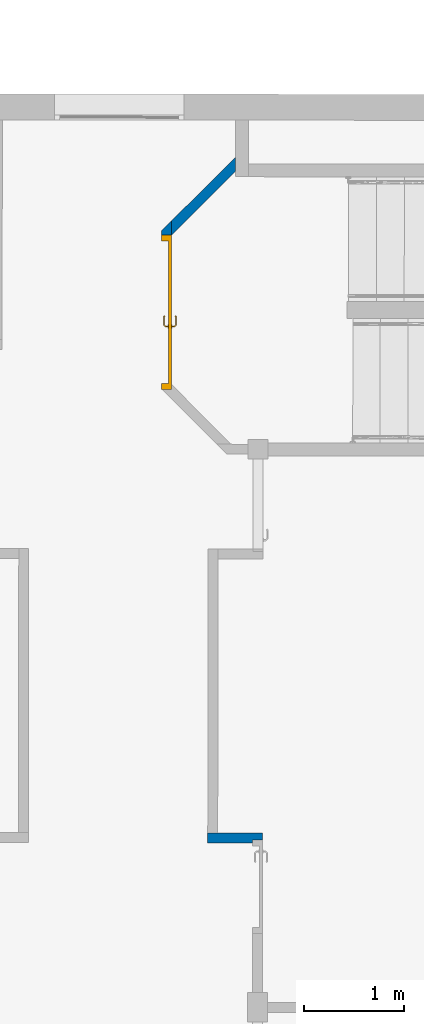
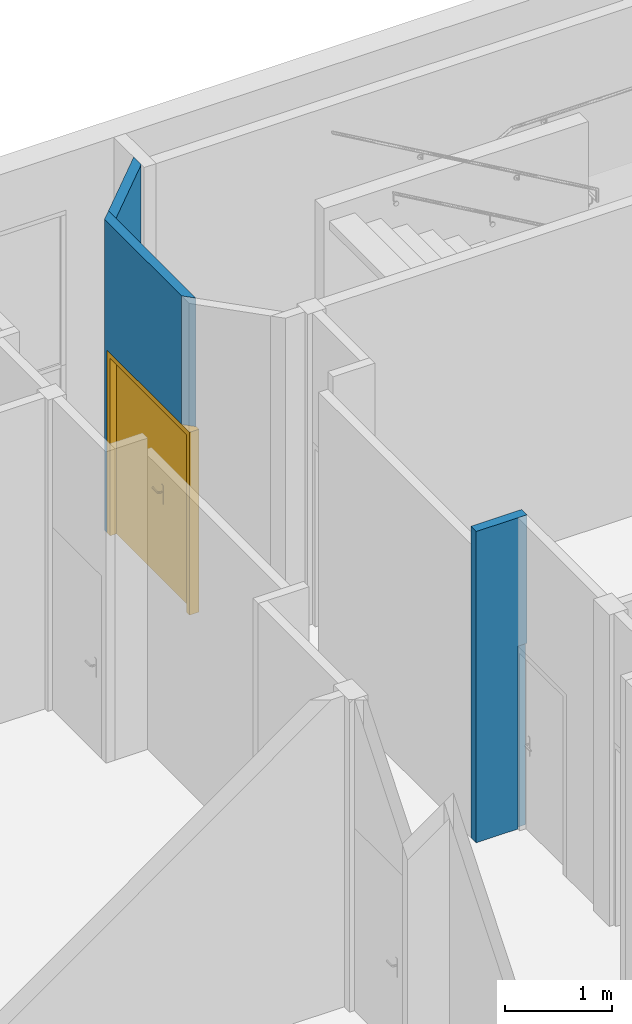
# One storey, part 67 of 101: 3 walls, 1 door, 2 openings.
"""IFC2X3 building model written with IfcOpenShell, lengths in metres."""

from ifc_helpers import new_model, entity, si_unit, converted_unit, derived_unit, direction, frame, frame_2d, origin, place, context, subcontext, project, spatial, polyline, rectangle, outline, extrude, faceted_brep, source, transform, mapped, material, material_list, layer, layer_set, layer_usage, type_object, type_shapes, element, fill, save


model = new_model("IFC2X3")

# Units and contexts
model_context = context("Model", 3, precision=1e-05, world=origin(), true_north=direction((6.123233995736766e-17, 1.0)))
body_context = subcontext(model_context, "Body", "Model", "MODEL_VIEW")
ifc_project = project(units=[si_unit("LENGTHUNIT", "METRE"), si_unit("AREAUNIT", "SQUARE_METRE"), converted_unit("PLANEANGLEUNIT", "DEGREE", entity("IfcPlaneAngleMeasure", 0.017453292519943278), si_unit("PLANEANGLEUNIT", "RADIAN"), dimensions=[0, 0, 0, 0, 0, 0, 0]), derived_unit("THERMALTRANSMITTANCEUNIT", [(si_unit("MASSUNIT", "GRAM", prefix="KILO"), 1), (si_unit("THERMODYNAMICTEMPERATUREUNIT", "KELVIN"), -1), (si_unit("TIMEUNIT", "SECOND"), -3)])], contexts=[model_context])

# Site, building, storey
site_placement = place(None, frame((1253.6752467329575, 2072.143113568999, 91.49999999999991), z_axis=(0.0, 0.0, 1.0), x_axis=(0.7237211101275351, 0.6900925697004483, 0.0)))
site = spatial("IfcSite", under=ifc_project, at=site_placement, Name="Surface", CompositionType="ELEMENT")
building_placement = place(site_placement, origin())
building = spatial("IfcBuilding", under=site, at=building_placement, CompositionType="ELEMENT")
storey_placement = place(building_placement, origin())
storey = spatial("IfcBuildingStorey", under=building, at=storey_placement, Name="0- Rdc", CompositionType="ELEMENT", Elevation=-5.764692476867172e-13)

# Wall, opening
ifc_material_1 = material(Name="OMD_Béton blanc")
ifc_layer = layer(ifc_material_1, 0.1)
ifc_layer_set = layer_set([ifc_layer], Name="Mur de base:MUR 10")
ifc_layer_usage_1 = layer_usage(ifc_layer_set, "AXIS2", "NEGATIVE", 0.05)
wall_type = type_object("IfcWallType", Name="Mur de base:MUR 10", PredefinedType="STANDARD", material=ifc_layer_set)
wall_1_placement = place(storey_placement, frame((167.12029654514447, 16.499422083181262, 0.0), z_axis=(0.0, 0.0, 1.0), x_axis=(-0.7228702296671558, 0.6909838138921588, 0.0)))
wall_1 = element("IfcWallStandardCase", 1, at=wall_1_placement, inside=storey, type_object=wall_type, material=ifc_layer_usage_1, Name="Mur de base:MUR 10", ObjectType="Mur de base:MUR 10", context=body_context, shape_type="SweptSolid", body=[
    extrude(rectangle(XDim=0.5499999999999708, YDim=0.10000000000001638, at=frame_2d((0.2749999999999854, 3.400058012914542e-16), x_axis=(-1.0, 0.0))), origin(), (0.0, 0.0, 1.0), 3.5499999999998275),
])
opening_1_placement = place(wall_1_placement, frame((109.40545354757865, 127.40436091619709, 0.0)))
element("IfcOpeningElement", 2, at=opening_1_placement, cuts=wall_1, Name="Mur de base:MUR 10", ObjectType="Opening", context=body_context, shape_type="SweptSolid", body=[
    extrude(rectangle(XDim=2.0850000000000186, YDim=0.09999999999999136, at=frame_2d((3.740063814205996e-15, -1.1102230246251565e-16), x_axis=(0.0, 1.0))), frame((-109.3554535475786, -127.38186091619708, 1.0425000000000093), z_axis=(0.0, 1.0, 0.0), x_axis=(1.0, 0.0, 0.0)), (0.0, 0.0, 1.0), 0.9349999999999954),
])

# Wall, opening, door
wall_2_placement = place(storey_placement, frame((169.56308877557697, 20.458735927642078, 0.0), z_axis=(0.0, 0.0, 1.0), x_axis=(0.690983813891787, 0.7228702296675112, 0.0)))
wall_2 = element("IfcWall", 3, at=wall_2_placement, inside=storey, type_object=wall_type, Name="Mur de base:MUR 10", ObjectType="Mur de base:MUR 10", context=body_context, shape_type="Brep", body=[
    faceted_brep([(1.641421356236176, -0.05000000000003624, 3.5499999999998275), (1.4999999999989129, -0.05000000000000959, 3.5499999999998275), (0.0, -0.05000000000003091, 3.5499999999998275), (0.0, -0.050000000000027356, 2.085), (1.4997269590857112, -0.05000000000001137, 2.085), (1.4997269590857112, -0.05000000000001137, 0.0), (1.4999999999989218, -0.05000000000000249, 0.0), (1.641421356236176, -0.05000000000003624, 0.0), (0.10000000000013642, 0.04999999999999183, 3.5499999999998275), (1.5414213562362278, 0.04999999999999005, 3.5499999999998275), (1.5414213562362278, 0.04999999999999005, 0.0), (1.499726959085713, 0.04999999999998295, 0.0), (1.4997269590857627, 0.049999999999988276, 2.085), (0.10000000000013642, 0.04999999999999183, 2.0849999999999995)], [[[0, 1, 2, 3, 4, 5, 6, 7]], [[8, 9, 10, 11, 12, 13]], [[2, 1, 0, 9, 8]], [[10, 7, 6, 5, 11]], [[0, 7, 10, 9]], [[2, 8, 13, 3]], [[12, 4, 3, 13]], [[4, 12, 11, 5]]]),
])
opening_2_placement = place(wall_2_placement, frame((1.4997269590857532, 0.050000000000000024, 0.0)))
opening_2 = element("IfcOpeningElement", 4, at=opening_2_placement, cuts=wall_2, Name="OMD_Porte 2V tunnel:140x204:1", ObjectType="Opening", context=body_context, shape_type="SweptSolid", body=[
    extrude(rectangle(XDim=2.085, YDim=1.5499999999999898, at=frame_2d((1.0425, 0.7749999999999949), x_axis=(1.0, 0.0))), frame((0.0, 0.0, 0.0), z_axis=(0.0, -1.0, 0.0), x_axis=(0.0, 0.0, 1.0)), (0.0, 0.0, 1.0), 0.09999999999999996),
])
ifc_material_2 = material(Name="<Unnamed>")
ifc_material_3 = material(Name="Porte - Poignée")
ifc_material_4 = material(Name="OMD_Bois")
ifc_material_list = material_list([ifc_material_2, ifc_material_3, ifc_material_4])
door_style = type_object("IfcDoorStyle", Name="OMD_Porte 2V tunnel:140x204", ConstructionType="NOTDEFINED", OperationType="NOTDEFINED", ParameterTakesPrecedence=False, Sizeable=False, material=ifc_material_list)
shared_shape = source(origin(), body_context, "Body", "Brep", [
    faceted_brep([(0.1450000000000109, 0.030000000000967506, 0.0), (0.6750000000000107, 0.030000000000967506, 0.0), (0.6750000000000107, 0.0, 0.0), (0.1450000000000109, 0.0, 0.0), (0.1450000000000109, 0.030000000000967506, 2.04), (0.1450000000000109, 0.0, 2.04), (0.6750000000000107, 0.0, 2.04), (0.6750000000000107, 0.030000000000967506, 2.04)], [[[0, 1, 2, 3]], [[4, 0, 3, 5]], [[5, 3, 2, 6]], [[6, 2, 1, 7]], [[7, 1, 0, 4]], [[4, 5, 6, 7]]]),
    faceted_brep([(0.7279747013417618, 0.035000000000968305, 1.0077804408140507), (0.7239999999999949, 0.035000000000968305, 1.0069999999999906), (0.7239999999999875, 0.035000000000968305, 0.9929999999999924), (0.7279747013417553, 0.035000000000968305, 0.9922195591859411), (0.7320252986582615, 0.035000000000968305, 0.9922195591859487), (0.7360000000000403, 0.035000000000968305, 0.9930000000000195), (0.7360000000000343, 0.035000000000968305, 1.0069999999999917), (0.7320252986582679, 0.035000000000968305, 1.007780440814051), (0.7360000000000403, 0.057485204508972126, 0.9930000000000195), (0.7360000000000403, 0.057485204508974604, 1.0069999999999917), (0.7320252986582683, 0.05913157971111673, 1.007780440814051), (0.7458389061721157, 0.07294518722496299, 1.007780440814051), (0.7441610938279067, 0.07699578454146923, 1.0077804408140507), (0.7279747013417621, 0.06080939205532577, 1.0077804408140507), (0.8356847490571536, 0.06646731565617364, 1.0077804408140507), (0.8385489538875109, 0.06933152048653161, 1.0077804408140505), (0.8308846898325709, 0.07699578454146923, 1.0077804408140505), (0.8292068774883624, 0.07294518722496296, 1.0077804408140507), (0.7239999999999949, 0.06245576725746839, 1.0069999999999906), (0.7239999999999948, 0.06245576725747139, 0.9929999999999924), (0.7279747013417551, 0.060809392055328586, 0.9922195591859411), (0.7441610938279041, 0.07699578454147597, 0.9922195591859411), (0.7458389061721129, 0.07294518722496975, 0.9922195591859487), (0.7320252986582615, 0.05913157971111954, 0.9922195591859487), (0.8385489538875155, 0.06933152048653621, 0.9922195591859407), (0.8356847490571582, 0.06646731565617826, 0.9922195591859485), (0.8292068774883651, 0.07294518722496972, 0.9922195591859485), (0.8308846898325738, 0.07699578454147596, 0.9922195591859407), (0.74748528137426, 0.06897048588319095, 0.9930000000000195), (0.7474852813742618, 0.06897048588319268, 1.0069999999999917), (0.7425147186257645, 0.08097048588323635, 1.0069999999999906), (0.7425147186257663, 0.08097048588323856, 0.9929999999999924), (0.787522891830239, 0.06897048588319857, 0.9930000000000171), (0.8275605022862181, 0.06897048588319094, 0.9930000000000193), (0.8275605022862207, 0.06897048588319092, 1.0069999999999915), (0.787522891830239, 0.06897048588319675, 1.0069999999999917), (0.7875228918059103, 0.07512492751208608, 1.0078781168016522), (0.8325310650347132, 0.0809704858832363, 1.0069999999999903), (0.7926005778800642, 0.08097048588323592, 1.0069999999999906), (0.8325310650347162, 0.08097048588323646, 0.9929999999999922), (0.7824452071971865, 0.08097048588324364, 0.9929999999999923), (0.7875228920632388, 0.07512492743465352, 0.9921218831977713), (0.8328742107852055, 0.06365677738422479, 0.9930000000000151), (0.8413594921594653, 0.0721420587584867, 0.99299999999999), (0.8413594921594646, 0.07214205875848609, 1.0069999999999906), (0.8328742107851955, 0.06365677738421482, 1.0069999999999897)], [[[0, 1, 2, 3, 4, 5, 6, 7]], [[6, 5, 8, 9]], [[9, 10, 7, 6]], [[10, 11, 12, 13, 0, 7]], [[14, 15, 16, 17]], [[13, 18, 1, 0]], [[2, 1, 18, 19]], [[19, 20, 3, 2]], [[20, 21, 22, 23, 4, 3]], [[24, 25, 26, 27]], [[23, 8, 5, 4]], [[9, 8, 28, 29]], [[29, 11, 10, 9]], [[12, 30, 18, 13]], [[19, 18, 30, 31]], [[31, 21, 20, 19]], [[22, 28, 8, 23]], [[29, 28, 32, 33, 34, 35]], [[11, 35, 36]], [[16, 37, 38]], [[30, 12, 38]], [[38, 12, 36]], [[36, 35, 17]], [[17, 16, 36]], [[35, 11, 29]], [[34, 17, 35]], [[11, 36, 12]], [[38, 36, 16]], [[31, 30, 38, 37, 39, 40]], [[40, 41, 21]], [[41, 40, 27]], [[21, 31, 40]], [[39, 27, 40]], [[41, 32, 22]], [[22, 21, 41]], [[26, 32, 41]], [[28, 22, 32]], [[32, 26, 33]], [[26, 41, 27]], [[42, 25, 24, 43, 44, 15, 14, 45]], [[34, 33, 42, 45]], [[45, 14, 17, 34]], [[15, 44, 37, 16]], [[39, 37, 44, 43]], [[43, 24, 27, 39]], [[25, 42, 33, 26]]]),
    faceted_brep([(0.7279747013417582, -0.004999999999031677, 1.0077804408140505), (0.7320252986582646, -0.004999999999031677, 1.007780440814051), (0.7360000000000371, -0.004999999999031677, 1.006999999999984), (0.7360000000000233, -0.004999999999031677, 0.9930000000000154), (0.7320252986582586, -0.004999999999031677, 0.9922195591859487), (0.7279747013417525, -0.004999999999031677, 0.992219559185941), (0.7239999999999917, -0.004999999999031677, 0.992999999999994), (0.7239999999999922, -0.004999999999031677, 1.0069999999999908), (0.723999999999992, -0.03265095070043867, 1.0069999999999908), (0.727974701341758, -0.031004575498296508, 1.0077804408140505), (0.7440235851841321, -0.047053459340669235, 1.0077804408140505), (0.745701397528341, -0.043002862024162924, 1.007780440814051), (0.7320252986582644, -0.029326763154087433, 1.007780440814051), (0.8385218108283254, -0.03938919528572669, 1.0077804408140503), (0.8356576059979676, -0.036524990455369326, 1.0077804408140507), (0.8291797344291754, -0.043002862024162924, 1.0077804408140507), (0.8308575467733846, -0.047053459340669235, 1.0077804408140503), (0.7360000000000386, -0.027680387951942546, 1.0069999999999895), (0.7360000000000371, -0.027680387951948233, 0.9930000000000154), (0.7320252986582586, -0.029326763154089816, 0.9922195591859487), (0.7457013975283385, -0.04300286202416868, 0.9922195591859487), (0.7440235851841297, -0.04705345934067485, 0.992219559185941), (0.7279747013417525, -0.031004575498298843, 0.992219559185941), (0.8356576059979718, -0.03652499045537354, 0.9922195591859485), (0.8385218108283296, -0.03938919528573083, 0.9922195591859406), (0.8308575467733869, -0.04705345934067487, 0.9922195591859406), (0.8291797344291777, -0.04300286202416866, 0.9922195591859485), (0.7239999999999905, -0.03265095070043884, 0.9929999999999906), (0.7423772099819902, -0.051028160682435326, 1.0069999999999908), (0.7473477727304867, -0.03902816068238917, 1.0069999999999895), (0.7473477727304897, -0.03902816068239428, 0.9930000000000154), (0.7423772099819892, -0.05102816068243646, 0.9929999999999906), (0.7823076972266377, -0.05102816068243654, 1.0069999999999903), (0.7874405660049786, -0.045182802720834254, 1.0078781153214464), (0.8325039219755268, -0.051028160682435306, 1.0069999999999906), (0.7874405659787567, -0.039028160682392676, 1.0069999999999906), (0.8275333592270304, -0.039028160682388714, 1.0069999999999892), (0.827533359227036, -0.03902816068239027, 0.9930000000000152), (0.7874405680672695, -0.03902816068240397, 0.9930000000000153), (0.7874405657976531, -0.04518280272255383, 0.9921218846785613), (0.832503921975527, -0.05102816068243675, 0.9929999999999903), (0.7925734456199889, -0.051028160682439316, 0.9929999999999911), (0.8328470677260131, -0.03371445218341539, 1.0069999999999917), (0.8413323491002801, -0.042199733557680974, 1.0069999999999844), (0.841332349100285, -0.04219973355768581, 0.9929999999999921), (0.8328470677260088, -0.03371445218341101, 0.9930000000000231)], [[[0, 1, 2, 3, 4, 5, 6, 7]], [[8, 9, 0, 7]], [[9, 10, 11, 12, 1, 0]], [[13, 14, 15, 16]], [[12, 17, 2, 1]], [[3, 2, 17, 18]], [[18, 19, 4, 3]], [[19, 20, 21, 22, 5, 4]], [[23, 24, 25, 26]], [[22, 27, 6, 5]], [[7, 6, 27, 8]], [[28, 10, 9, 8]], [[11, 29, 17, 12]], [[18, 17, 29, 30]], [[30, 20, 19, 18]], [[21, 31, 27, 22]], [[8, 27, 31, 28]], [[32, 33, 10]], [[33, 32, 16]], [[10, 28, 32]], [[34, 16, 32]], [[33, 35, 11]], [[11, 10, 33]], [[15, 35, 33]], [[29, 11, 35]], [[35, 15, 36]], [[15, 33, 16]], [[30, 29, 35, 36, 37, 38]], [[20, 38, 39]], [[25, 40, 41]], [[31, 21, 41]], [[41, 21, 39]], [[39, 38, 26]], [[26, 25, 39]], [[38, 20, 30]], [[37, 26, 38]], [[20, 39, 21]], [[41, 39, 25]], [[28, 31, 41, 40, 34, 32]], [[42, 14, 13, 43, 44, 24, 23, 45]], [[43, 13, 16, 34]], [[14, 42, 36, 15]], [[37, 36, 42, 45]], [[45, 23, 26, 37]], [[24, 44, 40, 25]], [[34, 40, 44, 43]]]),
    faceted_brep([(0.7403527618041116, 0.030000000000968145, 0.8660039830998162), (0.7500000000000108, 0.030000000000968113, 0.8700000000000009), (0.7500000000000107, 0.030000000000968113, 1.0800000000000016), (0.7403527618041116, 0.030000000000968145, 1.0839960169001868), (0.730000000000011, 0.03000000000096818, 1.0853589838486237), (0.7196472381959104, 0.03000000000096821, 1.0839960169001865), (0.7100000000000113, 0.030000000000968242, 1.0800000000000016), (0.7100000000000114, 0.030000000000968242, 0.8700000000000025), (0.7196472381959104, 0.03000000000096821, 0.866003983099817), (0.7300000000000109, 0.03000000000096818, 0.8646410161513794), (0.7403527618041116, 0.035000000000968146, 1.0839960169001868), (0.7500000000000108, 0.03500000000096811, 1.0800000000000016), (0.7500000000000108, 0.03500000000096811, 0.8700000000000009), (0.7403527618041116, 0.035000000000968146, 0.8660039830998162), (0.7300000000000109, 0.03500000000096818, 0.8646410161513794), (0.7196472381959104, 0.035000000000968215, 0.866003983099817), (0.7100000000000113, 0.03500000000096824, 0.8700000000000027), (0.7100000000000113, 0.03500000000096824, 1.0800000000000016), (0.7196472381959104, 0.035000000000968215, 1.0839960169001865), (0.730000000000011, 0.03500000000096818, 1.0853589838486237)], [[[0, 1, 2, 3, 4, 5, 6, 7, 8, 9]], [[10, 11, 12, 13, 14, 15, 16, 17, 18, 19]], [[11, 10, 3, 2]], [[3, 10, 19, 4]], [[19, 18, 5, 4]], [[18, 17, 6, 5]], [[7, 6, 17, 16]], [[16, 15, 8, 7]], [[8, 15, 14, 9]], [[14, 13, 0, 9]], [[13, 12, 1, 0]], [[2, 1, 12, 11]]]),
    faceted_brep([(0.7403527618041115, -0.004999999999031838, 0.8660039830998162), (0.7500000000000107, -0.004999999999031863, 0.8700000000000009), (0.7500000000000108, -0.004999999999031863, 1.0800000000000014), (0.7403527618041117, -0.004999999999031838, 1.0839960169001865), (0.7300000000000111, -0.004999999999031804, 1.0853589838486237), (0.7196472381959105, -0.00499999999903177, 1.0839960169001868), (0.7100000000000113, -0.0049999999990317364, 1.0800000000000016), (0.7100000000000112, -0.0049999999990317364, 0.8700000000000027), (0.71964723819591, -0.00499999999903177, 0.8660039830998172), (0.7300000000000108, -0.004999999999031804, 0.8646410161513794), (0.7403527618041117, 0.0, 1.0839960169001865), (0.7500000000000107, 0.0, 1.0800000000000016), (0.7500000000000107, 0.0, 0.8700000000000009), (0.7403527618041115, 0.0, 0.8660039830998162), (0.7300000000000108, 0.0, 0.8646410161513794), (0.71964723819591, 0.0, 0.8660039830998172), (0.7100000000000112, 0.0, 0.8700000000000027), (0.7100000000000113, 0.0, 1.0800000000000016), (0.7196472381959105, 0.0, 1.0839960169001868), (0.7300000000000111, 0.0, 1.0853589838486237)], [[[0, 1, 2, 3, 4, 5, 6, 7, 8, 9]], [[10, 11, 12, 13, 14, 15, 16, 17, 18, 19]], [[16, 15, 8, 7]], [[8, 15, 14, 9]], [[14, 13, 0, 9]], [[13, 12, 1, 0]], [[2, 1, 12, 11]], [[11, 10, 3, 2]], [[3, 10, 19, 4]], [[19, 18, 5, 4]], [[18, 17, 6, 5]], [[7, 6, 17, 16]]]),
    faceted_brep([(0.6750000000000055, 0.030000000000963, 0.0), (1.6050000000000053, 0.0300000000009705, 0.0), (1.6050000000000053, 0.0, 0.0), (0.675000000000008, 0.0, 0.0), (0.6750000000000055, 0.030000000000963, 2.04), (0.675000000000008, 0.0, 2.04), (1.6050000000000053, 0.0, 2.04), (1.6050000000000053, 0.0300000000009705, 2.04)], [[[0, 1, 2, 3]], [[4, 0, 3, 5]], [[5, 3, 2, 6]], [[6, 2, 1, 7]], [[7, 1, 0, 4]], [[4, 5, 6, 7]]]),
    faceted_brep([(0.10000000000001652, 0.0, 0.0), (0.10000000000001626, 0.10000000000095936, 0.0), (0.1600000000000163, 0.10000000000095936, 0.0), (0.16000000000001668, 0.030000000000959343, 0.0), (0.14500000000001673, 0.0300000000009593, 0.0), (0.14500000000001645, 0.0, 0.0), (0.14500000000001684, 0.0, 2.0399999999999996), (1.605000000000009, 0.0, 2.0399999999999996), (1.6050000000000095, 0.0, 0.0), (1.6500000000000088, 0.0, 0.0), (1.6500000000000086, 0.0, 2.0849999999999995), (0.10000000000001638, 0.0, 2.085), (0.1450000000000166, 0.0300000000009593, 2.0399999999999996), (0.16000000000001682, 0.030000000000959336, 2.0249999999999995), (1.5900000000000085, 0.03000000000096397, 2.0249999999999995), (1.5900000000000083, 0.03000000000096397, 0.0), (1.6050000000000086, 0.030000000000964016, 0.0), (1.6050000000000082, 0.030000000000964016, 2.039999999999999), (0.16000000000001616, 0.10000000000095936, 2.0249999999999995), (0.10000000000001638, 0.10000000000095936, 2.0849999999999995), (1.6500000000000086, 0.10000000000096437, 2.0849999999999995), (1.6500000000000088, 0.10000000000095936, 0.0), (1.5900000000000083, 0.10000000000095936, 0.0), (1.5900000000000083, 0.10000000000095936, 2.0249999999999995)], [[[0, 1, 2, 3, 4, 5]], [[5, 6, 7, 8, 9, 10, 11, 0]], [[4, 12, 6, 5]], [[3, 13, 14, 15, 16, 17, 12, 4]], [[2, 18, 13, 3]], [[1, 19, 20, 21, 22, 23, 18, 2]], [[0, 11, 19, 1]], [[10, 9, 21, 20]], [[9, 8, 16, 15, 22, 21]], [[17, 16, 8, 7]], [[23, 22, 15, 14]], [[12, 17, 7, 6]], [[18, 23, 14, 13]], [[11, 10, 20, 19]]]),
])
type_shapes(door_style, [shared_shape])
door_placement = place(opening_2_placement, frame((-1.6500000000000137, -0.0999999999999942, 0.0)))
door = element("IfcDoor", 5, at=door_placement, inside=storey, type_object=door_style, material=ifc_material_list, Name="OMD_Porte 2V tunnel:140x204", ObjectType="OMD_Porte 2V tunnel:140x204", OverallHeight=2.085, OverallWidth=1.5500000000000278, context=body_context, shape_type="MappedRepresentation", body=[
    mapped(shared_shape, transform((0.0, 0.0, 0.0), scale=1.0)),
])
fill(opening_2, door)

# Wall
ifc_layer_usage_2 = layer_usage(ifc_layer_set, "AXIS2", "NEGATIVE", 0.05)
wall_3_placement = place(storey_placement, frame((170.63458065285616, 21.558479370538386, 0.0), z_axis=(0.0, 0.0, 1.0), x_axis=(0.9997457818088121, 0.022547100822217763, 0.0)))
element("IfcWallStandardCase", 6, at=wall_3_placement, inside=storey, type_object=wall_type, material=ifc_layer_usage_2, Name="Mur de base:MUR 10", ObjectType="Mur de base:MUR 10", context=body_context, shape_type="SweptSolid", body=[
    extrude(outline(polyline([(0.2492893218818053, -0.32000000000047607), (0.3907106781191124, -0.32000000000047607), (-0.24928932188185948, 0.3200000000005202), (-0.3907106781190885, 0.320000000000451), (0.2492893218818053, -0.32000000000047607)])), frame((0.5025483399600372, 0.0, 0.0), z_axis=(0.0, 0.0, 1.0), x_axis=(0.7071067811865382, 0.7071067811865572, 0.0)), (0.0, 0.0, 1.0), 3.5499999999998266),
])

save(model, "model.ifc")
